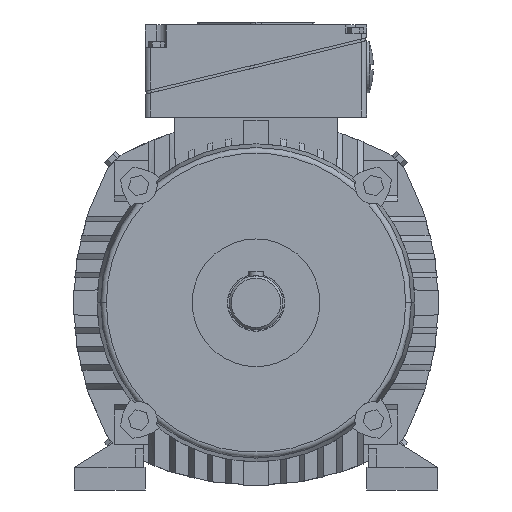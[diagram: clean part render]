
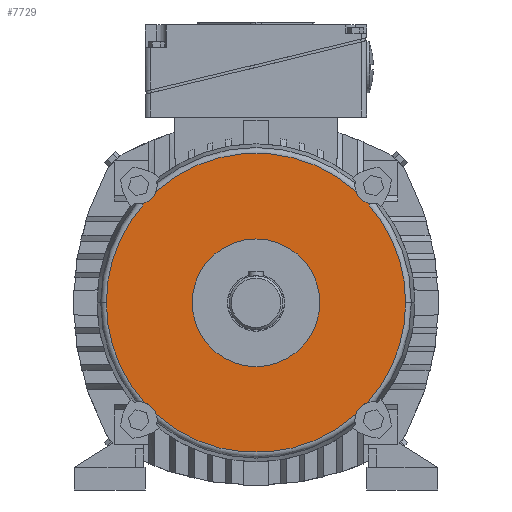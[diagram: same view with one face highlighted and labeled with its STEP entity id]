
A CAD part, front view. The second image highlights one B-rep face of the part: STEP entity #7729.
In plain terms, the highlighted planar face has unit normal (0, -1, 0).
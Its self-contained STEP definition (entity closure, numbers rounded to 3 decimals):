
#4033=VERTEX_POINT('',#11810);
#4235=VERTEX_POINT('',#12026);
#4377=EDGE_CURVE('',#4033,#5251,#12178,.T.);
#4421=VERTEX_POINT('',#12229);
#4621=VERTEX_POINT('',#12454);
#4641=VERTEX_POINT('',#12475);
#4877=VERTEX_POINT('',#12735);
#5057=EDGE_CURVE('',#5975,#4877,#12928,.T.);
#5251=VERTEX_POINT('',#13145);
#5265=VERTEX_POINT('',#13161);
#5397=VERTEX_POINT('',#13305);
#5751=EDGE_CURVE('',#5397,#9379,#13699,.T.);
#5777=EDGE_CURVE('',#4621,#7737,#13729,.T.);
#5975=VERTEX_POINT('',#13944);
#6441=VERTEX_POINT('',#14452);
#6611=EDGE_CURVE('',#6441,#8987,#14635,.T.);
#6635=EDGE_CURVE('',#7737,#8117,#14660,.T.);
#6661=VERTEX_POINT('',#14688);
#6727=EDGE_CURVE('',#6661,#5265,#14757,.T.);
#6921=EDGE_CURVE('',#5251,#4235,#14974,.T.);
#7521=EDGE_CURVE('',#4235,#5397,#15631,.T.);
#7547=EDGE_CURVE('',#8987,#4641,#15660,.T.);
#7729=ADVANCED_FACE('',(#15863,#15864),#15865,.T.);
#7737=VERTEX_POINT('',#15873);
#7789=EDGE_CURVE('',#9379,#4621,#15930,.T.);
#8117=VERTEX_POINT('',#16283);
#8987=VERTEX_POINT('',#17229);
#9129=EDGE_CURVE('',#4877,#5975,#17382,.T.);
#9379=VERTEX_POINT('',#17647);
#9877=EDGE_CURVE('',#5265,#6441,#18206,.T.);
#9893=EDGE_CURVE('',#4641,#4033,#18224,.T.);
#10589=EDGE_CURVE('',#4421,#6661,#18980,.T.);
#11663=EDGE_CURVE('',#8117,#4421,#20145,.T.);
#11810=CARTESIAN_POINT('',(105.535,-34.0,0.));
#12026=CARTESIAN_POINT('',(73.539,-34.0,73.539));
#12178=CIRCLE('',#21128,105.535);
#12229=CARTESIAN_POINT('',(-78.625,-34.0,-70.397));
#12454=CARTESIAN_POINT('',(-73.539,-34.0,73.539));
#12475=CARTESIAN_POINT('',(78.625,-34.0,-70.397));
#12735=CARTESIAN_POINT('',(-45.0,-34.0,0.));
#12928=CIRCLE('',#22448,45.0);
#13145=CARTESIAN_POINT('',(78.625,-34.0,70.397));
#13161=CARTESIAN_POINT('',(-70.397,-34.0,-78.625));
#13305=CARTESIAN_POINT('',(70.397,-34.0,78.625));
#13699=CIRCLE('',#24071,105.535);
#13729=CIRCLE('',#24129,13.0);
#13944=CARTESIAN_POINT('',(45.0,-34.0,0.));
#14452=CARTESIAN_POINT('',(70.397,-34.0,-78.625));
#14635=CIRCLE('',#25985,13.0);
#14660=CIRCLE('',#26053,105.535);
#14688=CARTESIAN_POINT('',(-73.539,-34.0,-73.539));
#14757=CIRCLE('',#26209,13.0);
#14974=CIRCLE('',#26653,13.0);
#15631=CIRCLE('',#28008,13.0);
#15660=CIRCLE('',#28070,13.0);
#15863=FACE_OUTER_BOUND('',#28401,.T.);
#15864=FACE_BOUND('',#28402,.T.);
#15865=PLANE('',#28403);
#15873=CARTESIAN_POINT('',(-78.625,-34.0,70.397));
#15930=CIRCLE('',#28492,13.0);
#16283=CARTESIAN_POINT('',(-105.535,-34.0,0.));
#17229=CARTESIAN_POINT('',(73.539,-34.0,-73.539));
#17382=CIRCLE('',#31435,45.0);
#17647=CARTESIAN_POINT('',(-70.397,-34.0,78.625));
#18206=CIRCLE('',#32952,105.535);
#18224=CIRCLE('',#32988,105.535);
#18980=CIRCLE('',#34589,13.0);
#20145=CIRCLE('',#36858,105.535);
#21128=AXIS2_PLACEMENT_3D('',#37305,#37306,#37307);
#22448=AXIS2_PLACEMENT_3D('',#38308,#38309,#38310);
#24071=AXIS2_PLACEMENT_3D('',#39199,#39200,#39201);
#24129=AXIS2_PLACEMENT_3D('',#39240,#39241,#39242);
#25985=AXIS2_PLACEMENT_3D('',#40140,#40141,#40142);
#26053=AXIS2_PLACEMENT_3D('',#40155,#40156,#40157);
#26209=AXIS2_PLACEMENT_3D('',#40227,#40228,#40229);
#26653=AXIS2_PLACEMENT_3D('',#40491,#40492,#40493);
#28008=AXIS2_PLACEMENT_3D('',#41158,#41159,#41160);
#28070=AXIS2_PLACEMENT_3D('',#41188,#41189,#41190);
#28401=EDGE_LOOP('',(#41446,#41447,#41448,#41449,#41450,#41451,#41452,#41453,#41454,#41455,#41456,#41457,#41458,#41459));
#28402=EDGE_LOOP('',(#41460,#41461));
#28403=AXIS2_PLACEMENT_3D('',#41462,#41463,#41464);
#28492=AXIS2_PLACEMENT_3D('',#41520,#41521,#41522);
#31435=AXIS2_PLACEMENT_3D('',#42920,#42921,#42922);
#32952=AXIS2_PLACEMENT_3D('',#43856,#43857,#43858);
#32988=AXIS2_PLACEMENT_3D('',#43891,#43892,#43893);
#34589=AXIS2_PLACEMENT_3D('',#44648,#44649,#44650);
#36858=AXIS2_PLACEMENT_3D('',#45818,#45819,#45820);
#37305=CARTESIAN_POINT('',(0.0,-34.0,0.0));
#37306=DIRECTION('',(0.0,-1.0,0.0));
#37307=DIRECTION('',(1.0,0.0,0.0));
#38308=CARTESIAN_POINT('',(0.0,-34.0,0.0));
#38309=DIRECTION('',(0.,1.0,0.0));
#38310=DIRECTION('',(1.0,0.,0.0));
#39199=CARTESIAN_POINT('',(0.0,-34.0,0.0));
#39200=DIRECTION('',(0.0,-1.0,0.0));
#39201=DIRECTION('',(1.0,0.0,0.0));
#39240=CARTESIAN_POINT('',(-82.731,-34.0,82.731));
#39241=DIRECTION('',(0.,1.0,0.0));
#39242=DIRECTION('',(-0.707,0.,0.707));
#40140=CARTESIAN_POINT('',(82.731,-34.0,-82.731));
#40141=DIRECTION('',(0.,1.0,0.0));
#40142=DIRECTION('',(0.707,0.,-0.707));
#40155=CARTESIAN_POINT('',(0.0,-34.0,0.0));
#40156=DIRECTION('',(0.0,-1.0,0.0));
#40157=DIRECTION('',(1.0,0.0,0.0));
#40227=CARTESIAN_POINT('',(-82.731,-34.0,-82.731));
#40228=DIRECTION('',(0.,1.0,0.0));
#40229=DIRECTION('',(-0.707,0.,-0.707));
#40491=CARTESIAN_POINT('',(82.731,-34.0,82.731));
#40492=DIRECTION('',(0.,1.0,0.0));
#40493=DIRECTION('',(0.707,0.,0.707));
#41158=CARTESIAN_POINT('',(82.731,-34.0,82.731));
#41159=DIRECTION('',(0.,1.0,0.0));
#41160=DIRECTION('',(0.707,0.,0.707));
#41188=CARTESIAN_POINT('',(82.731,-34.0,-82.731));
#41189=DIRECTION('',(0.,1.0,0.0));
#41190=DIRECTION('',(0.707,0.,-0.707));
#41446=ORIENTED_EDGE('',*,*,#6611,.T.);
#41447=ORIENTED_EDGE('',*,*,#7547,.T.);
#41448=ORIENTED_EDGE('',*,*,#9893,.T.);
#41449=ORIENTED_EDGE('',*,*,#4377,.T.);
#41450=ORIENTED_EDGE('',*,*,#6921,.T.);
#41451=ORIENTED_EDGE('',*,*,#7521,.T.);
#41452=ORIENTED_EDGE('',*,*,#5751,.T.);
#41453=ORIENTED_EDGE('',*,*,#7789,.T.);
#41454=ORIENTED_EDGE('',*,*,#5777,.T.);
#41455=ORIENTED_EDGE('',*,*,#6635,.T.);
#41456=ORIENTED_EDGE('',*,*,#11663,.T.);
#41457=ORIENTED_EDGE('',*,*,#10589,.T.);
#41458=ORIENTED_EDGE('',*,*,#6727,.T.);
#41459=ORIENTED_EDGE('',*,*,#9877,.T.);
#41460=ORIENTED_EDGE('',*,*,#9129,.T.);
#41461=ORIENTED_EDGE('',*,*,#5057,.T.);
#41462=CARTESIAN_POINT('',(52.768,-34.0,0.0));
#41463=DIRECTION('',(0.,-1.0,0.0));
#41464=DIRECTION('',(1.0,0.,0.0));
#41520=CARTESIAN_POINT('',(-82.731,-34.0,82.731));
#41521=DIRECTION('',(0.,1.0,0.0));
#41522=DIRECTION('',(-0.707,0.,0.707));
#42920=CARTESIAN_POINT('',(0.0,-34.0,0.0));
#42921=DIRECTION('',(0.,1.0,0.0));
#42922=DIRECTION('',(1.0,0.,0.0));
#43856=CARTESIAN_POINT('',(0.0,-34.0,0.0));
#43857=DIRECTION('',(0.0,-1.0,0.0));
#43858=DIRECTION('',(1.0,0.0,0.0));
#43891=CARTESIAN_POINT('',(0.0,-34.0,0.0));
#43892=DIRECTION('',(0.0,-1.0,0.0));
#43893=DIRECTION('',(1.0,0.0,0.0));
#44648=CARTESIAN_POINT('',(-82.731,-34.0,-82.731));
#44649=DIRECTION('',(0.,1.0,0.0));
#44650=DIRECTION('',(-0.707,0.,-0.707));
#45818=CARTESIAN_POINT('',(0.0,-34.0,0.0));
#45819=DIRECTION('',(0.0,-1.0,0.0));
#45820=DIRECTION('',(1.0,0.0,0.0));
